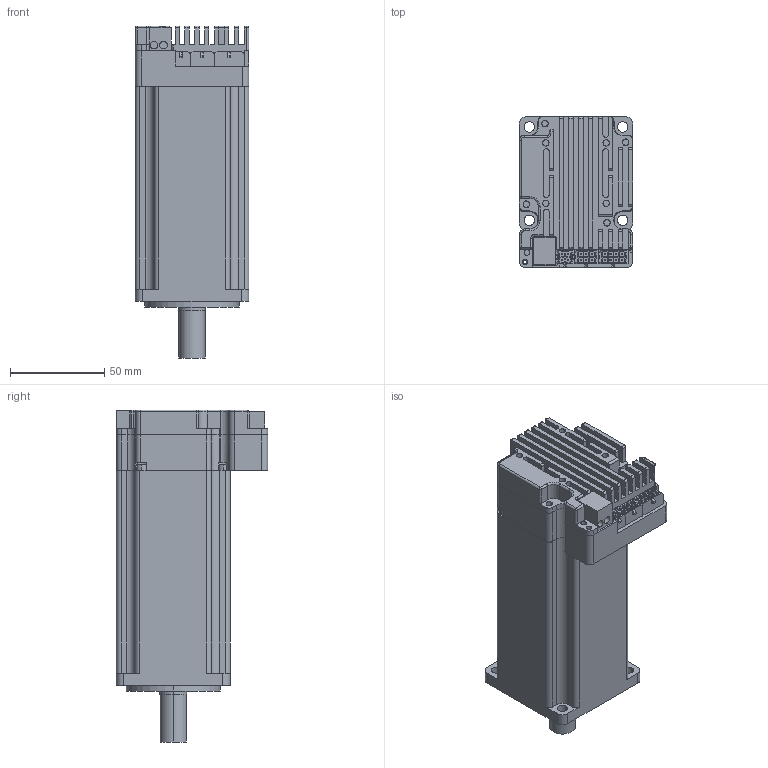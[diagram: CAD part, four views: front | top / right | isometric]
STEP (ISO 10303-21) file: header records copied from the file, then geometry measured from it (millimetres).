
FILE_DESCRIPTION (( 'STEP AP214' ), '1' );
FILE_NAME ('FCMT24P60B400W.STEP', '2023-11-24T02:58:16', ( 'shaun' ), ( '' ), 'SwSTEP 2.0', 'SolidWorks 2020', '' );
FILE_SCHEMA (( 'AUTOMOTIVE_DESIGN' ));
Length unit declared in the file: millimetre
Products named in the file (3): FCMT24P60B400W; WHOLE_CONTROLLER; 400WB
Assembly tree (2 placements, depth 2):
  FCMT24P60B400W
    400WB
    WHOLE_CONTROLLER
Bounding box: 60.3 x 80.15 x 175.9 mm (x, y, z)
Volume: 444130.6 mm3; surface area: 123900.4 mm2
Topology: 291 solids, 291 shells, 3495 faces, 8287 edges, 5450 vertices
Faces by surface type: plane 1804, cylinder 1673, torus 7, sphere 5, cone 4, bspline 2
Entity records: 143441 total; most frequent: DIRECTION 18636, CARTESIAN_POINT 17308, ORIENTED_EDGE 16564, EDGE_CURVE 8282, AXIS2_PLACEMENT_3D 6866, VERTEX_POINT 5450, VECTOR 4904, LINE 4904
